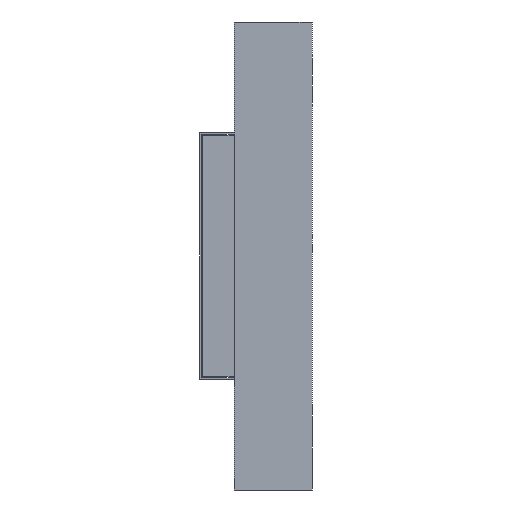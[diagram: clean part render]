
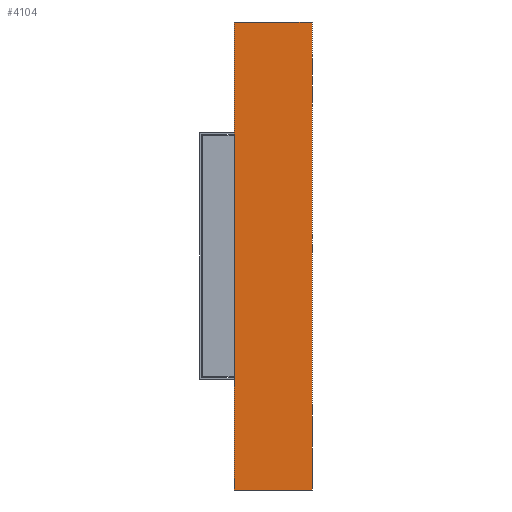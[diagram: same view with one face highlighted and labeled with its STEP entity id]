
A CAD part, left-side view. The second image highlights one B-rep face of the part: STEP entity #4104.
In plain terms, the highlighted planar face has unit normal (-1, 0, 0).
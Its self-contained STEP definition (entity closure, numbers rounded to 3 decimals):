
#937=DIRECTION('',(0.,1.,0.));
#938=VECTOR('',#937,10.);
#939=CARTESIAN_POINT('',(-255.65,0.,30.));
#940=LINE('',#939,#938);
#941=DIRECTION('',(0.,0.,1.));
#942=VECTOR('',#941,60.);
#943=CARTESIAN_POINT('',(-255.65,0.,-30.));
#944=LINE('',#943,#942);
#945=DIRECTION('',(0.,-1.,0.));
#946=VECTOR('',#945,10.);
#947=CARTESIAN_POINT('',(-255.65,10.,-30.));
#948=LINE('',#947,#946);
#949=DIRECTION('',(0.,0.,-1.));
#950=VECTOR('',#949,60.);
#951=CARTESIAN_POINT('',(-255.65,10.,30.));
#952=LINE('',#951,#950);
#2641=CARTESIAN_POINT('',(-255.65,0.,30.));
#2642=CARTESIAN_POINT('',(-255.65,10.,30.));
#2643=VERTEX_POINT('',#2641);
#2644=VERTEX_POINT('',#2642);
#2645=CARTESIAN_POINT('',(-255.65,10.,-30.));
#2646=VERTEX_POINT('',#2645);
#2647=CARTESIAN_POINT('',(-255.65,0.,-30.));
#2648=VERTEX_POINT('',#2647);
#4093=CARTESIAN_POINT('',(-255.65,0.,0.));
#4094=DIRECTION('',(-1.,0.,0.));
#4095=DIRECTION('',(0.,-1.,0.));
#4096=AXIS2_PLACEMENT_3D('',#4093,#4094,#4095);
#4097=PLANE('',#4096);
#4098=ORIENTED_EDGE('',*,*,#3489,.F.);
#4099=ORIENTED_EDGE('',*,*,#3504,.F.);
#4100=ORIENTED_EDGE('',*,*,#3626,.F.);
#4101=ORIENTED_EDGE('',*,*,#3639,.F.);
#4102=EDGE_LOOP('',(#4098,#4099,#4100,#4101));
#4103=FACE_OUTER_BOUND('',#4102,.F.);
#4104=ADVANCED_FACE('',(#4103),#4097,.T.);
#3489=EDGE_CURVE('',#2643,#2644,#940,.T.);
#3504=EDGE_CURVE('',#2648,#2643,#944,.T.);
#3626=EDGE_CURVE('',#2646,#2648,#948,.T.);
#3639=EDGE_CURVE('',#2644,#2646,#952,.T.);
